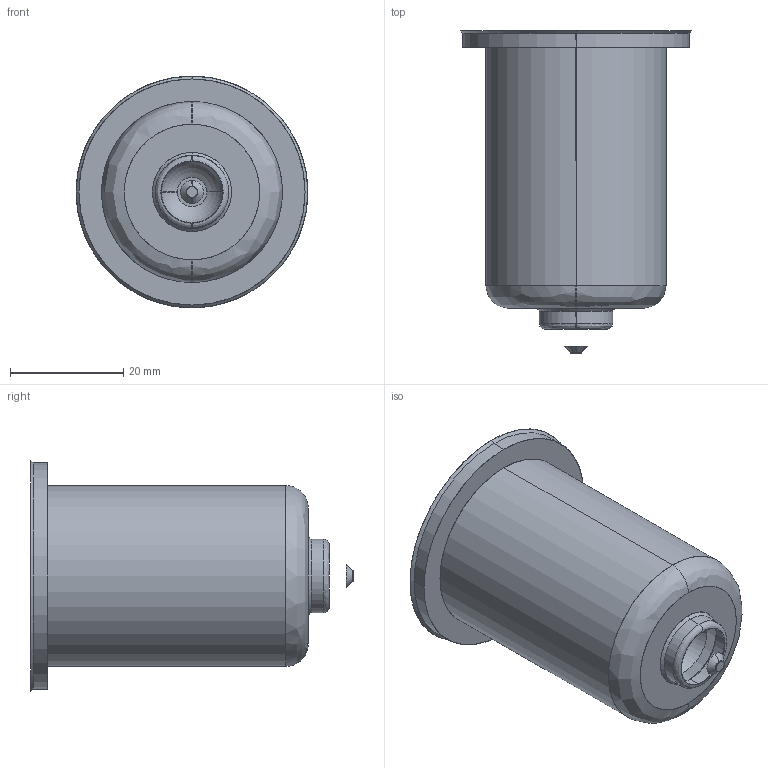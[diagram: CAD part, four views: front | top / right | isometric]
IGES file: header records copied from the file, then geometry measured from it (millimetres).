
Start section: SolidWorks IGES file using analytic representation for surfaces
Global section: file name: C:\Documents and Settings\ws-20\Desktop\TEM\Sede UGEP4501-M-A C-54 L-89 Ød-2.0.IGS; native system: SolidWorks 2012; preprocessor: SolidWorks 2012; author: ws-20; date: 120424.083503; units: millimetre
Bounding box: 41 x 57.14 x 41 mm (x, y, z)
Surface area: 7614.3 mm2 (no closed solid volume)
Topology: 0 solids, 0 shells, 25 faces, 436 edges, 436 vertices
Faces by surface type: revolution 16, bspline 9
